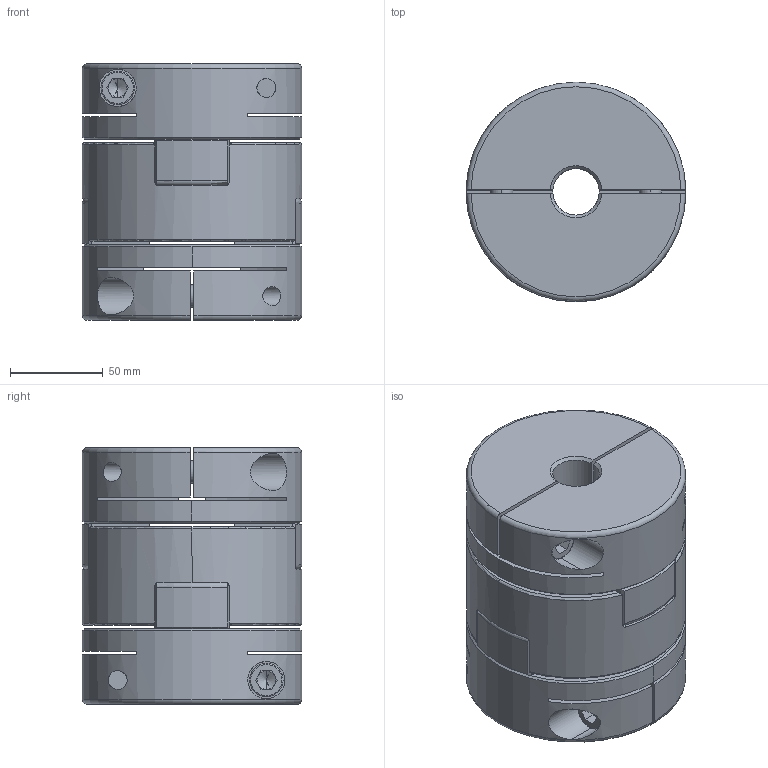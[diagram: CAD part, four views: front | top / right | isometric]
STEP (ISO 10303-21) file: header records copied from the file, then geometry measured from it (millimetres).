
FILE_DESCRIPTION (( 'STEP AP203' ), '1' );
FILE_NAME ('SOH-120C-25X60_203.STEP', '2013-02-13T06:33:17', ( '' ), ( '' ), 'SwSTEP 2.0', 'SolidWorks 2012', '' );
FILE_SCHEMA (( 'CONFIG_CONTROL_DESIGN' ));
Length unit declared in the file: millimetre
Products named in the file (1): SOH-120C-25X60_203
Bounding box: 118 x 118 x 138 mm (x, y, z)
Volume: 1151185.9 mm3; surface area: 163634.6 mm2
Topology: 1 solids, 1 shells, 324 faces, 826 edges, 504 vertices
Faces by surface type: plane 142, cylinder 100, torus 41, cone 41
Entity records: 11104 total; most frequent: CARTESIAN_POINT 3219, DIRECTION 1665, ORIENTED_EDGE 1636, EDGE_CURVE 818, AXIS2_PLACEMENT_3D 642, VERTEX_POINT 504, VECTOR 381, LINE 381
